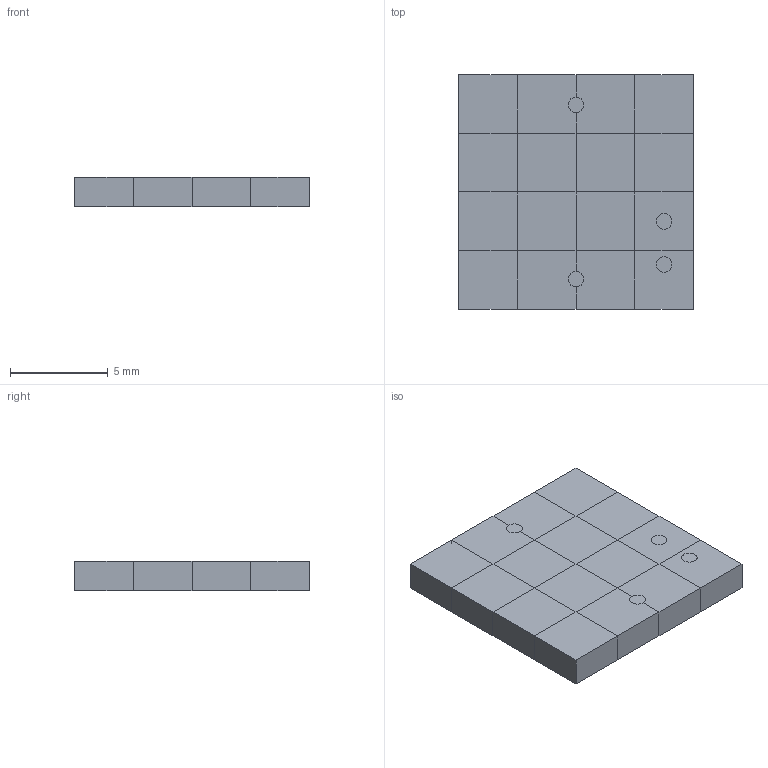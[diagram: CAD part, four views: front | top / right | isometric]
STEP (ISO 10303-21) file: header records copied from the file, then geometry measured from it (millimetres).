
FILE_DESCRIPTION(('Open CASCADE Model'),'2;1');
FILE_NAME('Open CASCADE Shape Model','2026-11-27T10:17:01',('Author'),( 'Open CASCADE'),'Open CASCADE STEP processor 7.9','Open CASCADE 7.9' ,'Unknown');
FILE_SCHEMA(('AUTOMOTIVE_DESIGN { 1 0 10303 214 1 1 1 1 }'));
Length unit declared in the file: millimetre
Products named in the file (3): manifold_N7; fluid; solid
Assembly tree (2 placements, depth 2):
  manifold_N7
    fluid
    solid
Bounding box: 12 x 12 x 1.5 mm (x, y, z)
Volume: 216 mm3; surface area: 1176.2 mm2
Topology: 2 solids, 2 shells, 836 faces, 2668 edges, 1560 vertices
Faces by surface type: plane 828, cylinder 8
Full cylindrical faces by diameter (mm): 0.8 x8
Entity records: 63554 total; most frequent: CARTESIAN_POINT 11305, DIRECTION 9502, LINE 7552, VECTOR 7552, ORIENTED_EDGE 5336, PCURVE 5336, DEFINITIONAL_REPRESENTATION 5336, EDGE_CURVE 2668
